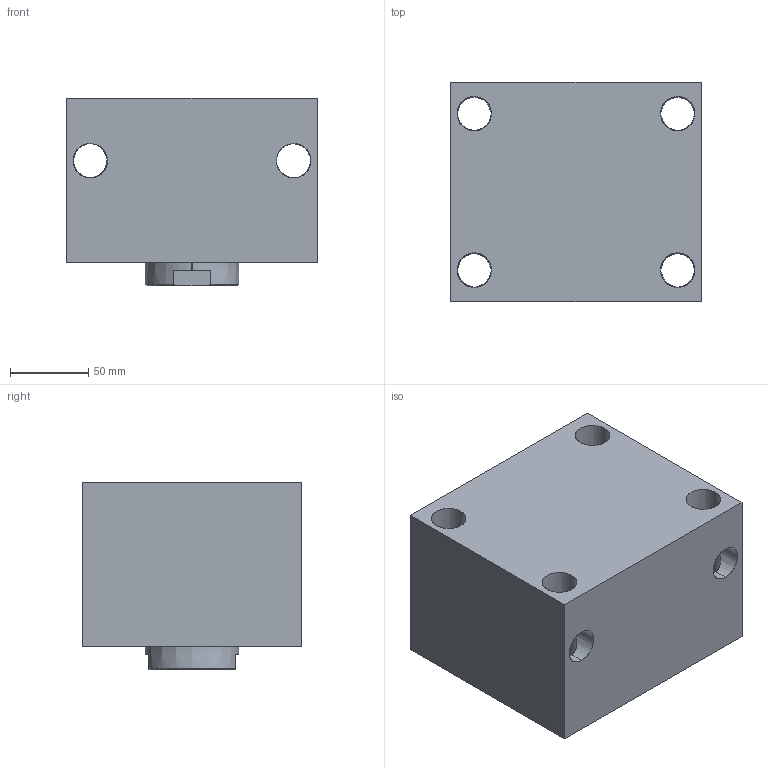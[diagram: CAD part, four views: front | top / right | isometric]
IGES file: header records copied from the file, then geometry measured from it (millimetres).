
Start section: SolidWorks IGES file using analytic representation for surfaces
Global section: file name: D:\karuppas\Clasp\3D model\Block cylinder B01C-Female thread\B01C-925F\Block cylinder B01C-925F.IGS; native system: SolidWorks 2017; preprocessor: SolidWorks 2017; author: pc; date: 220710.001115; units: millimetre
Bounding box: 160 x 140 x 120 mm (x, y, z)
Surface area: 195624.5 mm2 (no closed solid volume)
Topology: 0 solids, 0 shells, 347 faces, 5525 edges, 5519 vertices
Faces by surface type: bspline 295, revolution 52
